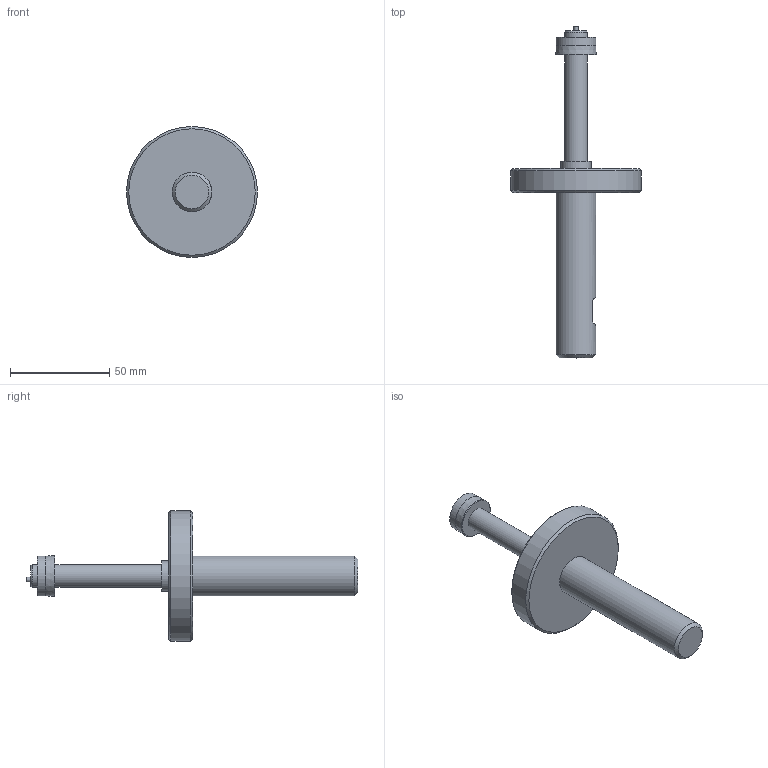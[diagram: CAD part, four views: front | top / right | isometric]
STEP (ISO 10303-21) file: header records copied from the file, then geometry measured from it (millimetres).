
FILE_DESCRIPTION (( 'STEP AP203' ), '1' );
FILE_NAME ('AF44-SIMPLE - AF44-11.50M-20.50M.step', '2025-01-21T15:05:01', ( '' ), ( '' ), 'SwSTEP 2.0', 'SolidWorks 2024', '' );
FILE_SCHEMA (( 'CONFIG_CONTROL_DESIGN' ));
Length unit declared in the file: inch
Products named in the file (1): AF44-SIMPLE - AF44-11.50M-20.50M
Bounding box: 66.04 x 167.39 x 66.04 mm (x, y, z)
Volume: 76719 mm3; surface area: 17487.7 mm2
Topology: 1 solids, 1 shells, 24 faces, 40 edges, 25 vertices
Faces by surface type: plane 11, cylinder 7, cone 5, torus 1
Full cylindrical faces by diameter (mm): 2.286 x1, 11.379 x2, 15.24 x1, 19.994 x1, 20 x1, 66.04 x1
Entity records: 569 total; most frequent: DIRECTION 94, CARTESIAN_POINT 81, ORIENTED_EDGE 52, AXIS2_PLACEMENT_3D 45, EDGE_LOOP 44, FACE_OUTER_BOUND 32, EDGE_CURVE 26, VERTEX_POINT 24
